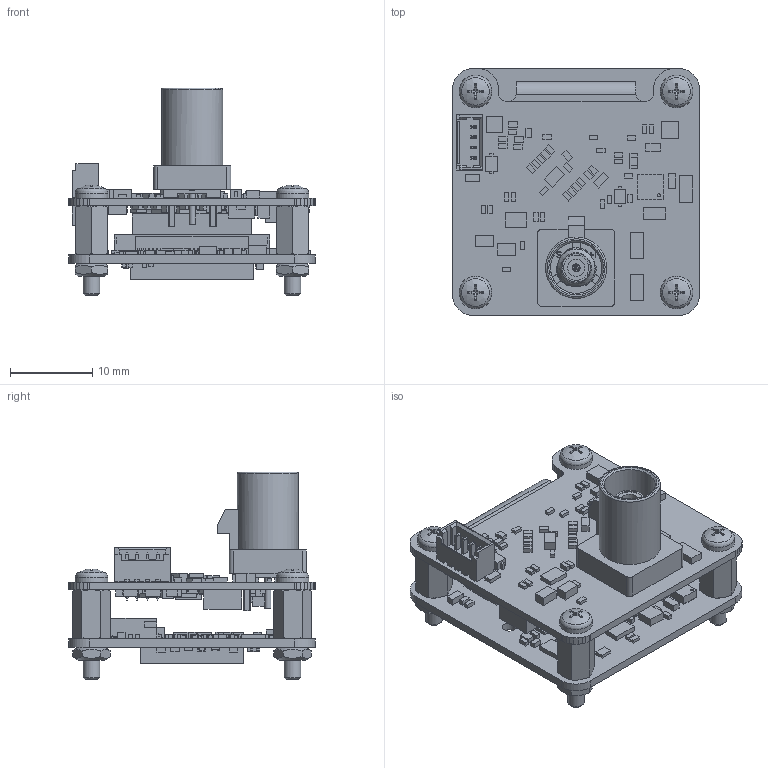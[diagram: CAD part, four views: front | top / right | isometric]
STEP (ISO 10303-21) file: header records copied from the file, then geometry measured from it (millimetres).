
FILE_DESCRIPTION(/* description */ ('289-20-2-16-00 (CX-Modul-R120_IMX568-R111)'),/* implementation_level */ '2;1');
FILE_NAME(/* name */ 'D:\HiDrive\1_Konstruktion\1_KUNDEN\TIS\289-20_MIPI-Dokumentation\KundenStepModell (KSM)\289-20-2_MIPI-CX-Modul (Kombi_SER953- Sensorb)\KSM_289-20-2-16-00_CX-R120_IMX568-R111.stp',/* time_stamp */ '2024-03-14T19:25:45+01:00',/* author */ ('khw'),/* organization */ ('TIS, Bremen-Germany'),/* preprocessor_version */ 'ST-DEVELOPER v18.1',/* originating_system */ 'Autodesk Inventor 2021',/* authorisation */ '');
FILE_SCHEMA (('AUTOMOTIVE_DESIGN { 1 0 10303 214 3 1 1 }'));
Length unit declared in the file: millimetre
Products named in the file (6): 289-20-2-16-00_CX-R120_IMX568-R111; ISO 4032 - M2; ISO 7045 - M2 x 4 - 4.8 - H; Sensor_IMX568_MIPI_HB_R0111; TISMIPI_SER953_R1-20; Distanzbolzen-IA-M2x6_0100018_SIBALCO
Assembly tree (14 placements, depth 2):
  289-20-2-16-00_CX-R120_IMX568-R111
    ISO 4032 - M2  x4
    ISO 7045 - M2 x 4 - 4.8 - H  x4
    Sensor_IMX568_MIPI_HB_R0111
    TISMIPI_SER953_R1-20
    Distanzbolzen-IA-M2x6_0100018_SIBALCO  x4
Bounding box: 30.1 x 30.1 x 25.34 mm (x, y, z)
Volume: 3604.2 mm3; surface area: 7929.2 mm2
Topology: 45 solids, 47 shells, 5132 faces, 13652 edges, 8558 vertices
Faces by surface type: plane 3813, cylinder 739, sphere 216, cone 138, bspline 116, torus 110
Full cylindrical faces by diameter (mm): 0.318 x1, 0.388 x1, 0.5 x5, 0.613 x1, 0.75 x1, 0.95 x2, 1.2 x1, 1.4 x4, 1.567 x8, 1.7 x2, 1.783 x4, 2 x8, 2.08 x1, 2.1 x8, 3.05 x2, 3.2 x1, 3.68 x1, 3.8 x1, 4.35 x1, 4.6 x1, 6.25 x1, 7.45 x1
Entity records: 160471 total; most frequent: CARTESIAN_POINT 33180, ORIENTED_EDGE 25972, DIRECTION 23835, EDGE_CURVE 12986, LINE 10641, VECTOR 10641, VERTEX_POINT 8234, AXIS2_PLACEMENT_3D 6597
